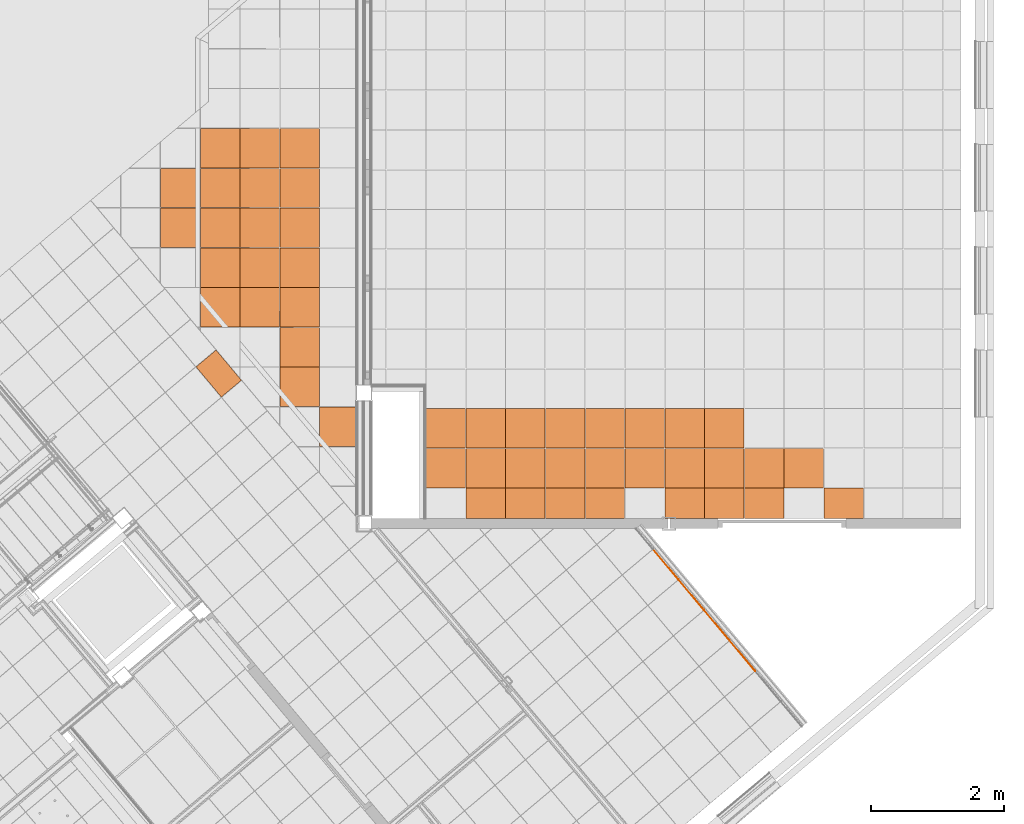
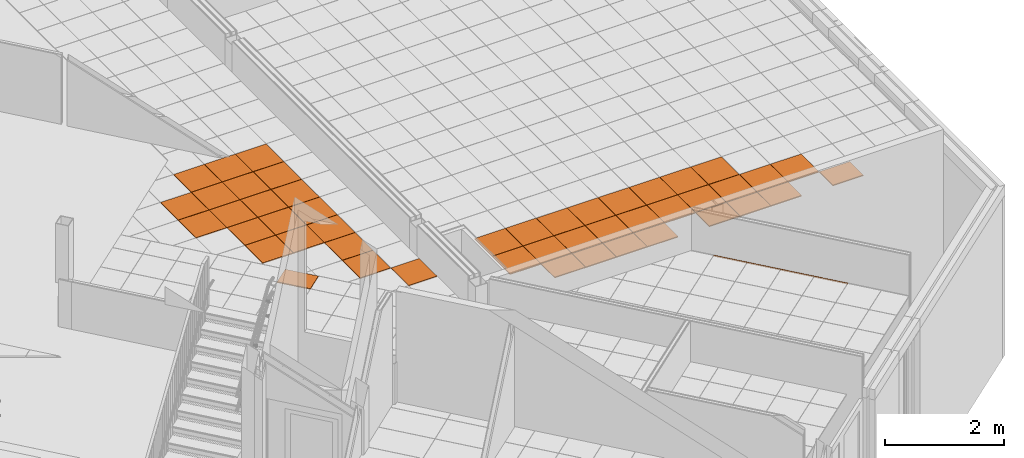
# One storey, part 215 of 338: 51 proxies, 4 elements without a shape of their own.
"""IFC2X3 building model written with IfcOpenShell, lengths in millimetres."""

import ifcopenshell
import ifcopenshell.guid

model = None  # the IFC model being written
_history = None  # IfcOwnerHistory: only IFC2X3 demands one
_inside = {}  # id of a spatial element -> (the spatial element, [elements in it])
_under = {}  # id of a project, library or spatial element -> (it, [spatial elements below it])
_declared = {}  # id of a project -> (the project, [libraries it declares])
_typed = {}  # id of a type object -> (the type object, [elements of that type])
_made_of = {}  # id of a material, layer set ... -> (it, [elements and type objects made of it])


def new_model(schema):
    """Start an empty IFC model of exactly this schema.

    Asked for "IFC4X3", IfcOpenShell would pick the latest addendum, in which some entities
    have other attributes; the version numbers below select the first issue.
    IFC2X3 requires an IfcOwnerHistory on every rooted entity: one is made here for all.
    """
    global model, _history
    if schema == "IFC4X3":
        model = ifcopenshell.file(schema_version=(4, 3, 0, 0))
    else:
        model = ifcopenshell.file(schema=schema)
    _inside.clear()
    _under.clear()
    _declared.clear()
    _typed.clear()
    _made_of.clear()
    _history = None
    if model.schema == "IFC2X3":
        org = make("IfcOrganization", Name="unknown")
        user = make(
            "IfcPersonAndOrganization",
            ThePerson=make("IfcPerson", FamilyName="unknown"),
            TheOrganization=org,
        )
        app = make(
            "IfcApplication",
            ApplicationDeveloper=org,
            Version="unknown",
            ApplicationFullName="unknown",
            ApplicationIdentifier="unknown",
        )
        _history = make(
            "IfcOwnerHistory",
            OwningUser=user,
            OwningApplication=app,
            ChangeAction="ADDED",
            CreationDate=0,
        )
    return model


def make(cls, **values):
    """One entity of the class cls with the attributes given. An attribute that is None is left unset."""
    return model.create_entity(
        cls, **{name: value for name, value in values.items() if value is not None}
    )


def entity(cls, *values):
    """Any entity or typed value of the class cls, its attributes in the order of the schema. None: left unset."""
    e = model.create_entity(cls)
    for i, value in enumerate(values):
        if value is not None:
            e[i] = value
    return e


def rooted(cls, **values):
    """An entity with a GlobalId (a new one), such as an element, a storey or a relation."""
    return make(cls, GlobalId=ifcopenshell.guid.new(), OwnerHistory=_history, **values)


def si_unit(unit_type, name, prefix=None):
    """IfcSIUnit, for example si_unit("LENGTHUNIT", "METRE", prefix="MILLI")."""
    return make("IfcSIUnit", UnitType=unit_type, Prefix=prefix, Name=name)


def converted_unit(unit_type, name, factor, base, dimensions=None, offset=None):
    """IfcConversionBasedUnit, such as the inch: factor (a typed value) times the base unit."""
    return make(
        "IfcConversionBasedUnit"
        if offset is None
        else "IfcConversionBasedUnitWithOffset",
        ConversionOffset=offset,
        Dimensions=None
        if dimensions is None
        else entity("IfcDimensionalExponents", *dimensions),
        UnitType=unit_type,
        Name=name,
        ConversionFactor=make(
            "IfcMeasureWithUnit", ValueComponent=factor, UnitComponent=base
        ),
    )


def derived_unit(unit_type, elements):
    """IfcDerivedUnit: a product of units, each with its exponent."""
    return make(
        "IfcDerivedUnit",
        Elements=[
            make("IfcDerivedUnitElement", Unit=unit, Exponent=power)
            for unit, power in elements
        ],
        UnitType=unit_type,
    )


def money_unit(currency):
    """IfcMonetaryUnit."""
    return make("IfcMonetaryUnit", Currency=currency)


def assignment(units):
    """IfcUnitAssignment: the units of a project."""
    return None if units is None else make("IfcUnitAssignment", Units=units)


def point(xyz):
    """IfcCartesianPoint."""
    return None if xyz is None else make("IfcCartesianPoint", Coordinates=xyz)


def direction(xyz):
    """IfcDirection."""
    return None if xyz is None else make("IfcDirection", DirectionRatios=xyz)


def frame(location, z_axis=None, x_axis=None):
    """IfcAxis2Placement3D, a coordinate frame: its origin and axes. An axis left out is left unset."""
    return make(
        "IfcAxis2Placement3D",
        Location=point(location),
        Axis=direction(z_axis),
        RefDirection=direction(x_axis),
    )


def origin_with_axes():
    """The frame at (0, 0, 0) with the z axis (0, 0, 1) and the x axis (1, 0, 0) written out."""
    return frame((0.0, 0.0, 0.0), z_axis=(0.0, 0.0, 1.0), x_axis=(1.0, 0.0, 0.0))


def place(relative_to, where):
    """IfcLocalPlacement: puts the frame where relative to a parent placement (None: the world)."""
    return make(
        "IfcLocalPlacement", PlacementRelTo=relative_to, RelativePlacement=where
    )


def context(
    kind, dimensions, precision=None, world=None, true_north=None, identifier=None
):
    """IfcGeometricRepresentationContext, for example the 3D "Model" context."""
    return make(
        "IfcGeometricRepresentationContext",
        ContextIdentifier=identifier,
        ContextType=kind,
        CoordinateSpaceDimension=dimensions,
        Precision=precision,
        WorldCoordinateSystem=world,
        TrueNorth=true_north,
    )


def subcontext(parent, identifier, kind, view, scale=None):
    """IfcGeometricRepresentationSubContext, for example "Body" below "Model"."""
    return make(
        "IfcGeometricRepresentationSubContext",
        ContextIdentifier=identifier,
        ContextType=kind,
        ParentContext=parent,
        TargetScale=scale,
        TargetView=view,
    )


def project(units=None, contexts=None):
    """IfcProject with its units and contexts."""
    return rooted(
        "IfcProject",
        Name="project",
        RepresentationContexts=contexts,
        UnitsInContext=assignment(units),
    )


def spatial(cls, under=None, at=None, **own):
    """A site, building, storey or space (cls), placed at a placement, below another one or the project."""
    s = rooted(cls, ObjectPlacement=at, **own)
    if under is not None:
        _under.setdefault(under.id(), (under, []))[1].append(s)
    return s


def faces_of(points, faces, orient=None, outer=None):
    """IfcFace entities. A face is a list of loops; a loop is a list of indices into points, from 0.

    orient and outer hold one flag for each loop. By default every Orientation is true, the
    first loop of a face is its IfcFaceOuterBound and the others are IfcFaceBound.
    """
    made = []
    for i, loops in enumerate(faces):
        bounds = []
        for j, loop in enumerate(loops):
            is_outer = j == 0 if outer is None else outer[i][j]
            bounds.append(
                make(
                    "IfcFaceOuterBound" if is_outer else "IfcFaceBound",
                    Bound=make("IfcPolyLoop", Polygon=[points[k] for k in loop]),
                    Orientation=True if orient is None else orient[i][j],
                )
            )
        made.append(make("IfcFace", Bounds=bounds))
    return made


def faceted_brep(points, faces, orient=None, outer=None, voids=None):
    """IfcFacetedBrep: a solid bounded by flat faces; with voids (closed shells), ...WithVoids."""
    shared = [point(p) for p in points]
    hull = make("IfcClosedShell", CfsFaces=faces_of(shared, faces, orient, outer))
    if voids is None:
        return make("IfcFacetedBrep", Outer=hull)
    return make(
        "IfcFacetedBrepWithVoids",
        Outer=hull,
        Voids=[
            make(cls, CfsFaces=faces_of(shared, fs, o, b)) for cls, fs, o, b in voids
        ],
    )


def shape(context_of_items, identifier, shape_type, items):
    """IfcShapeRepresentation: the items that make up one representation, for example the "Body"."""
    return make(
        "IfcShapeRepresentation",
        ContextOfItems=context_of_items,
        RepresentationIdentifier=identifier,
        RepresentationType=shape_type,
        Items=items,
    )


def source(mapping_origin, context_of_items, identifier, shape_type, items):
    """IfcRepresentationMap: a shape defined once, which mapped items show again and again."""
    return make(
        "IfcRepresentationMap",
        MappingOrigin=mapping_origin,
        MappedRepresentation=shape(context_of_items, identifier, shape_type, items),
    )


def transform(
    local_origin,
    x_axis=None,
    y_axis=None,
    z_axis=None,
    scale=None,
    scale2=None,
    scale3=None,
    uniform=True,
):
    """IfcCartesianTransformationOperator3D, or its non-uniform kind. x_axis, y_axis, z_axis: its Axis1, 2, 3."""
    if uniform:
        return make(
            "IfcCartesianTransformationOperator3D",
            Axis1=direction(x_axis),
            Axis2=direction(y_axis),
            LocalOrigin=point(local_origin),
            Scale=scale,
            Axis3=direction(z_axis),
        )
    return make(
        "IfcCartesianTransformationOperator3DnonUniform",
        Axis1=direction(x_axis),
        Axis2=direction(y_axis),
        LocalOrigin=point(local_origin),
        Scale=scale,
        Axis3=direction(z_axis),
        Scale2=scale2,
        Scale3=scale3,
    )


def mapped(mapping_source, mapping_target):
    """IfcMappedItem: shows the shape of a source again, moved by a transform."""
    return make(
        "IfcMappedItem", MappingSource=mapping_source, MappingTarget=mapping_target
    )


def material(Name=None, Category=None):
    """IfcMaterial."""
    return make("IfcMaterial", Name=Name, Category=Category)


def made_of(thing, what):
    """Note that an element or type object is made of a material, layer set ...; save() writes the relation."""
    if what is not None:
        _made_of.setdefault(what.id(), (what, []))[1].append(thing)
    return thing


def type_object(cls, material=None, **own):
    """A type object (cls), such as IfcWallType, which elements share."""
    return made_of(rooted(cls, **own), material)


def type_shapes(of_type, sources):
    """Give a type object the sources (RepresentationMaps) that its elements show as mapped items."""
    of_type.RepresentationMaps = sources


def element(
    cls,
    number,
    at=None,
    inside=None,
    cuts=None,
    type_object=None,
    material=None,
    context=None,
    identifier="Body",
    shape_type=None,
    held_by="IfcProductDefinitionShape",
    body=None,
    shapes=None,
    **own,
):
    """One element of the class cls, such as IfcWall. Its Tag is "e" and its number.

    at: its placement. inside: the storey or other place that contains it. cuts: it is an
    opening in that element (IfcRelVoidsElement). A single representation is given by context,
    identifier, shape_type and body (its items); several are given by shapes. held_by: the class
    of the entity that holds the representations. save() writes the other relations.
    """
    e = rooted(cls, Tag="e%d" % number, ObjectPlacement=at, **own)
    if body is not None:
        shapes = [shape(context, identifier, shape_type, body)]
    if shapes is not None:
        e.Representation = make(held_by, Representations=shapes)
    if inside is not None:
        _inside.setdefault(inside.id(), (inside, []))[1].append(e)
    if cuts is not None:
        rooted(
            "IfcRelVoidsElement", RelatingBuildingElement=cuts, RelatedOpeningElement=e
        )
    if type_object is not None:
        _typed.setdefault(type_object.id(), (type_object, []))[1].append(e)
    return made_of(e, material)


def aggregate(whole, parts):
    """IfcRelAggregates: a whole, such as a stair, and the parts it consists of."""
    return rooted("IfcRelAggregates", RelatingObject=whole, RelatedObjects=parts)


def save(model, path):
    """Write the relations noted so far, then the file.

    IfcRelAggregates (storeys below a building ...), IfcRelContainedInSpatialStructure (elements
    in a storey), IfcRelDefinesByType, IfcRelAssociatesMaterial and IfcRelDeclares: one each for
    every whole, place, type object, material and project.
    """
    for whole, parts in _under.values():
        aggregate(whole, parts)
    for where, things in _inside.values():
        rooted(
            "IfcRelContainedInSpatialStructure",
            RelatedElements=things,
            RelatingStructure=where,
        )
    for kind, things in _typed.values():
        rooted("IfcRelDefinesByType", RelatedObjects=things, RelatingType=kind)
    for what, things in _made_of.values():
        rooted("IfcRelAssociatesMaterial", RelatedObjects=things, RelatingMaterial=what)
    for by, libraries in _declared.values():
        rooted("IfcRelDeclares", RelatingContext=by, RelatedDefinitions=libraries)
    model.write(path)


model = new_model("IFC2X3")

# Units and contexts
model_context = context("Model", 3, precision=0.01, world=origin_with_axes(), true_north=direction((0.0, 1.0)))
plan_context = context("Plan", 3, precision=0.01, world=origin_with_axes(), true_north=direction((0.0, 1.0)))
body_context = subcontext(model_context, "Body", "Model", "MODEL_VIEW")
ifc_project = project(units=[si_unit("LENGTHUNIT", "METRE", prefix="MILLI"), si_unit("AREAUNIT", "SQUARE_METRE"), si_unit("VOLUMEUNIT", "CUBIC_METRE"), converted_unit("PLANEANGLEUNIT", "DEGREE", entity("IfcPlaneAngleMeasure", 0.0174532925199), si_unit("PLANEANGLEUNIT", "RADIAN"), dimensions=[0, 0, 0, 0, 0, 0, 0]), money_unit("EUR"), converted_unit("TIMEUNIT", "Year", entity("IfcTimeMeasure", 31556926.0), si_unit("TIMEUNIT", "SECOND"), dimensions=[0, 0, 1, 0, 0, 0, 0]), si_unit("MASSUNIT", "GRAM", prefix="KILO"), si_unit("THERMODYNAMICTEMPERATUREUNIT", "DEGREE_CELSIUS"), si_unit("LUMINOUSINTENSITYUNIT", "LUMEN"), si_unit("ENERGYUNIT", "JOULE", prefix="MEGA"), derived_unit("THERMALCONDUCTANCEUNIT", [(si_unit("POWERUNIT", "WATT"), 1), (si_unit("LENGTHUNIT", "METRE"), -1), (si_unit("THERMODYNAMICTEMPERATUREUNIT", "KELVIN"), -1)]), derived_unit("SPECIFICHEATCAPACITYUNIT", [(si_unit("ENERGYUNIT", "JOULE"), 1), (si_unit("MASSUNIT", "GRAM", prefix="KILO"), -1), (si_unit("THERMODYNAMICTEMPERATUREUNIT", "KELVIN"), -1)]), derived_unit("MASSDENSITYUNIT", [(si_unit("MASSUNIT", "GRAM", prefix="KILO"), 1), (si_unit("VOLUMEUNIT", "CUBIC_METRE"), -1)])], contexts=[model_context, plan_context])

# Site, building, storey
site_placement = place(None, origin_with_axes())
site = spatial("IfcSite", under=ifc_project, at=site_placement, Name="Fortuinstraat Woensdrecht", CompositionType="ELEMENT")
building_placement = place(site_placement, origin_with_axes())
building = spatial("IfcBuilding", under=site, at=building_placement, Name="IKC Fortuna", CompositionType="ELEMENT")
storey_placement = place(building_placement, origin_with_axes())
storey = spatial("IfcBuildingStorey", under=building, at=storey_placement, Name="00 begane grond", CompositionType="ELEMENT", Elevation=0.0)

# Covering, proxies
covering_type = type_object("IfcCoveringType", Name="Curtain Wall Type", PredefinedType="CEILING")
covering_1_placement = place(storey_placement, frame((34484.9342671, 3789.29664615, 3065.0), z_axis=(0.0, 0.0, 1.0), x_axis=(1.0, 0.0, 0.0)))
covering_1 = element("IfcCovering", 1, at=covering_1_placement, inside=storey, type_object=covering_type, Name="45_Plafondafwerking_P02 gec", PredefinedType="CEILING")
ifc_material = material(Name="Gipsplaat")
building_element_proxy_type_1 = type_object("IfcBuildingElementProxyType", Name="Distinct Panel 600 x 600 x 20", PredefinedType="NOTDEFINED")
shared_shape_1 = source(origin_with_axes(), body_context, "Body", "Brep", [
    faceted_brep([(-2.49999999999, 2.5, -10.0), (-2.49999999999, 2.5, 10.0), (-597.5, 2.49999999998, 10.0), (-597.5, 2.49999999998, -10.0), (-2.50000000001, 597.5, -10.0), (-2.50000000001, 597.5, 10.0), (-597.5, 597.5, 10.0), (-597.5, 597.5, -10.0)], [[[0, 1, 2, 3]], [[4, 5, 1, 0]], [[1, 5, 6, 2]], [[3, 2, 6, 7]], [[0, 3, 7, 4]], [[7, 6, 5, 4]]]),
])
proxy_1_placement = place(covering_1_placement, frame((-5834.49272604, -1200.0, 0.0), z_axis=(0.0, 0.0, 1.0), x_axis=(1.0, 0.0, 0.0)))
proxy_1 = element("IfcBuildingElementProxy", 2, at=proxy_1_placement, type_object=building_element_proxy_type_1, material=ifc_material, Name="__Panel-D", context=body_context, shape_type="MappedRepresentation", body=[
    mapped(shared_shape_1, transform((-300.0, 300.0, 0.0), x_axis=(-1.0, 0.0, 0.0), y_axis=(0.0, -1.0, 0.0), z_axis=(0.0, 0.0, 1.0))),
])
proxy_2_placement = place(covering_1_placement, frame((-2834.49272604, -1200.0, 1.95399252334e-10), z_axis=(0.0, 0.0, 1.0), x_axis=(1.0, 0.0, 0.0)))
proxy_2 = element("IfcBuildingElementProxy", 3, at=proxy_2_placement, type_object=building_element_proxy_type_1, material=ifc_material, Name="__Panel-D", context=body_context, shape_type="MappedRepresentation", body=[
    mapped(shared_shape_1, transform((-300.0, 300.0, 0.0), x_axis=(-1.0, 0.0, 0.0), y_axis=(0.0, -1.0, 0.0), z_axis=(0.0, 0.0, 1.0))),
])
proxy_3_placement = place(covering_1_placement, frame((-2234.49272604, -1200.0, 2.14939177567e-10), z_axis=(0.0, 0.0, 1.0), x_axis=(1.0, 0.0, 0.0)))
proxy_3 = element("IfcBuildingElementProxy", 4, at=proxy_3_placement, type_object=building_element_proxy_type_1, material=ifc_material, Name="__Panel-D", context=body_context, shape_type="MappedRepresentation", body=[
    mapped(shared_shape_1, transform((-300.0, 300.0, 0.0), x_axis=(-1.0, 0.0, 0.0), y_axis=(0.0, -1.0, 0.0), z_axis=(0.0, 0.0, 1.0))),
])
proxy_4_placement = place(covering_1_placement, frame((-5834.49272604, -600.0, 0.0), z_axis=(0.0, 0.0, 1.0), x_axis=(1.0, 0.0, 0.0)))
proxy_4 = element("IfcBuildingElementProxy", 5, at=proxy_4_placement, type_object=building_element_proxy_type_1, material=ifc_material, Name="__Panel-D", context=body_context, shape_type="MappedRepresentation", body=[
    mapped(shared_shape_1, transform((-300.0, 300.0, 0.0), x_axis=(-1.0, 0.0, 0.0), y_axis=(0.0, -1.0, 0.0), z_axis=(0.0, 0.0, 1.0))),
])
proxy_5_placement = place(covering_1_placement, frame((-7034.49272604, -600.0, 0.0), z_axis=(0.0, 0.0, 1.0), x_axis=(1.0, 0.0, 0.0)))
proxy_5 = element("IfcBuildingElementProxy", 6, at=proxy_5_placement, type_object=building_element_proxy_type_1, material=ifc_material, Name="__Panel-D", context=body_context, shape_type="MappedRepresentation", body=[
    mapped(shared_shape_1, transform((-300.0, 300.0, 0.0), x_axis=(-1.0, 0.0, 0.0), y_axis=(0.0, -1.0, 0.0), z_axis=(0.0, 0.0, 1.0))),
])
proxy_6_placement = place(covering_1_placement, frame((-4634.49272604, -1200.0, 1.37223565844e-10), z_axis=(0.0, 0.0, 1.0), x_axis=(1.0, 0.0, 0.0)))
proxy_6 = element("IfcBuildingElementProxy", 7, at=proxy_6_placement, type_object=building_element_proxy_type_1, material=ifc_material, Name="__Panel-D", context=body_context, shape_type="MappedRepresentation", body=[
    mapped(shared_shape_1, transform((-300.0, 300.0, 0.0), x_axis=(-1.0, 0.0, 0.0), y_axis=(0.0, -1.0, 0.0), z_axis=(0.0, 0.0, 1.0))),
])
proxy_7_placement = place(covering_1_placement, frame((-5234.49272604, -1200.0, 1.1768364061e-10), z_axis=(0.0, 0.0, 1.0), x_axis=(1.0, 0.0, 0.0)))
proxy_7 = element("IfcBuildingElementProxy", 8, at=proxy_7_placement, type_object=building_element_proxy_type_1, material=ifc_material, Name="__Panel-D", context=body_context, shape_type="MappedRepresentation", body=[
    mapped(shared_shape_1, transform((-300.0, 300.0, 0.0), x_axis=(-1.0, 0.0, 0.0), y_axis=(0.0, -1.0, 0.0), z_axis=(0.0, 0.0, 1.0))),
])
proxy_8_placement = place(covering_1_placement, frame((-5234.49272604, -600.0, 1.1768364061e-10), z_axis=(0.0, 0.0, 1.0), x_axis=(1.0, 0.0, 0.0)))
proxy_8 = element("IfcBuildingElementProxy", 9, at=proxy_8_placement, type_object=building_element_proxy_type_1, material=ifc_material, Name="__Panel-D", context=body_context, shape_type="MappedRepresentation", body=[
    mapped(shared_shape_1, transform((-300.0, 300.0, 0.0), x_axis=(-1.0, 0.0, 0.0), y_axis=(0.0, -1.0, 0.0), z_axis=(0.0, 0.0, 1.0))),
])
proxy_9_placement = place(covering_1_placement, frame((-4034.49272604, -600.0, 1.56319401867e-10), z_axis=(0.0, 0.0, 1.0), x_axis=(1.0, 0.0, 0.0)))
proxy_9 = element("IfcBuildingElementProxy", 10, at=proxy_9_placement, type_object=building_element_proxy_type_1, material=ifc_material, Name="__Panel-D", context=body_context, shape_type="MappedRepresentation", body=[
    mapped(shared_shape_1, transform((-300.0, 300.0, 0.0), x_axis=(-1.0, 0.0, 0.0), y_axis=(0.0, -1.0, 0.0), z_axis=(0.0, 0.0, 1.0))),
])
proxy_10_placement = place(covering_1_placement, frame((-3434.49272604, -600.0, 1.75859327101e-10), z_axis=(0.0, 0.0, 1.0), x_axis=(1.0, 0.0, 0.0)))
proxy_10 = element("IfcBuildingElementProxy", 11, at=proxy_10_placement, type_object=building_element_proxy_type_1, material=ifc_material, Name="__Panel-D", context=body_context, shape_type="MappedRepresentation", body=[
    mapped(shared_shape_1, transform((-300.0, 300.0, 0.0), x_axis=(-1.0, 0.0, 0.0), y_axis=(0.0, -1.0, 0.0), z_axis=(0.0, 0.0, 1.0))),
])
proxy_11_placement = place(covering_1_placement, frame((-4634.49272604, -600.0, 1.37223565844e-10), z_axis=(0.0, 0.0, 1.0), x_axis=(1.0, 0.0, 0.0)))
proxy_11 = element("IfcBuildingElementProxy", 12, at=proxy_11_placement, type_object=building_element_proxy_type_1, material=ifc_material, Name="__Panel-D", context=body_context, shape_type="MappedRepresentation", body=[
    mapped(shared_shape_1, transform((-300.0, 300.0, 0.0), x_axis=(-1.0, 0.0, 0.0), y_axis=(0.0, -1.0, 0.0), z_axis=(0.0, 0.0, 1.0))),
])
proxy_12_placement = place(covering_1_placement, frame((-3434.49272604, -1200.0, 1.75859327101e-10), z_axis=(0.0, 0.0, 1.0), x_axis=(1.0, 0.0, 0.0)))
proxy_12 = element("IfcBuildingElementProxy", 13, at=proxy_12_placement, type_object=building_element_proxy_type_1, material=ifc_material, Name="__Panel-D", context=body_context, shape_type="MappedRepresentation", body=[
    mapped(shared_shape_1, transform((-300.0, 300.0, 0.0), x_axis=(-1.0, 0.0, 0.0), y_axis=(0.0, -1.0, 0.0), z_axis=(0.0, 0.0, 1.0))),
])
proxy_13_placement = place(covering_1_placement, frame((-4034.49272604, -1200.0, 1.56319401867e-10), z_axis=(0.0, 0.0, 1.0), x_axis=(1.0, 0.0, 0.0)))
proxy_13 = element("IfcBuildingElementProxy", 14, at=proxy_13_placement, type_object=building_element_proxy_type_1, material=ifc_material, Name="__Panel-D", context=body_context, shape_type="MappedRepresentation", body=[
    mapped(shared_shape_1, transform((-300.0, 300.0, 0.0), x_axis=(-1.0, 0.0, 0.0), y_axis=(0.0, -1.0, 0.0), z_axis=(0.0, 0.0, 1.0))),
])
proxy_14_placement = place(covering_1_placement, frame((-6434.49272604, -1200.0, 0.0), z_axis=(0.0, 0.0, 1.0), x_axis=(1.0, 0.0, 0.0)))
proxy_14 = element("IfcBuildingElementProxy", 15, at=proxy_14_placement, type_object=building_element_proxy_type_1, material=ifc_material, Name="__Panel-D", context=body_context, shape_type="MappedRepresentation", body=[
    mapped(shared_shape_1, transform((-300.0, 300.0, 0.0), x_axis=(-1.0, 0.0, 0.0), y_axis=(0.0, -1.0, 0.0), z_axis=(0.0, 0.0, 1.0))),
])
proxy_15_placement = place(covering_1_placement, frame((-7634.49272604, -1200.0, 0.0), z_axis=(0.0, 0.0, 1.0), x_axis=(1.0, 0.0, 0.0)))
proxy_15 = element("IfcBuildingElementProxy", 16, at=proxy_15_placement, type_object=building_element_proxy_type_1, material=ifc_material, Name="__Panel-D", context=body_context, shape_type="MappedRepresentation", body=[
    mapped(shared_shape_1, transform((-300.0, 300.0, 0.0), x_axis=(-1.0, 0.0, 0.0), y_axis=(0.0, -1.0, 0.0), z_axis=(0.0, 0.0, 1.0))),
])
proxy_16_placement = place(covering_1_placement, frame((-7634.49272604, -600.0, 0.0), z_axis=(0.0, 0.0, 1.0), x_axis=(1.0, 0.0, 0.0)))
proxy_16 = element("IfcBuildingElementProxy", 17, at=proxy_16_placement, type_object=building_element_proxy_type_1, material=ifc_material, Name="__Panel-D", context=body_context, shape_type="MappedRepresentation", body=[
    mapped(shared_shape_1, transform((-300.0, 300.0, 0.0), x_axis=(-1.0, 0.0, 0.0), y_axis=(0.0, -1.0, 0.0), z_axis=(0.0, 0.0, 1.0))),
])
proxy_17_placement = place(covering_1_placement, frame((-7034.49272604, -1200.0, 0.0), z_axis=(0.0, 0.0, 1.0), x_axis=(1.0, 0.0, 0.0)))
proxy_17 = element("IfcBuildingElementProxy", 18, at=proxy_17_placement, type_object=building_element_proxy_type_1, material=ifc_material, Name="__Panel-D", context=body_context, shape_type="MappedRepresentation", body=[
    mapped(shared_shape_1, transform((-300.0, 300.0, 0.0), x_axis=(-1.0, 0.0, 0.0), y_axis=(0.0, -1.0, 0.0), z_axis=(0.0, 0.0, 1.0))),
])
proxy_18_placement = place(covering_1_placement, frame((-6434.49272604, -600.0, 0.0), z_axis=(0.0, 0.0, 1.0), x_axis=(1.0, 0.0, 0.0)))
proxy_18 = element("IfcBuildingElementProxy", 19, at=proxy_18_placement, type_object=building_element_proxy_type_1, material=ifc_material, Name="__Panel-D", context=body_context, shape_type="MappedRepresentation", body=[
    mapped(shared_shape_1, transform((-300.0, 300.0, 0.0), x_axis=(-1.0, 0.0, 0.0), y_axis=(0.0, -1.0, 0.0), z_axis=(0.0, 0.0, 1.0))),
])

covering_2_placement = place(storey_placement, frame((23508.1808374, 14013.4616156, 3010.0), z_axis=(0.0, 0.0, 1.0), x_axis=(1.0, 0.0, 0.0)))
covering_2 = element("IfcCovering", 20, at=covering_2_placement, inside=storey, type_object=covering_type, Name="45_Plafondafwerking_P04", PredefinedType="CEILING")
proxy_19_placement = place(covering_2_placement, frame((-63.2542355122, -7800.0, 0.0), z_axis=(0.0, 0.0, 1.0), x_axis=(1.0, 0.0, 0.0)))
proxy_19 = element("IfcBuildingElementProxy", 21, at=proxy_19_placement, type_object=building_element_proxy_type_1, material=ifc_material, Name="__Panel-D", context=body_context, shape_type="MappedRepresentation", body=[
    mapped(shared_shape_1, transform((-300.0, 300.0, 0.0), x_axis=(-1.0, 0.0, 0.0), y_axis=(0.0, -1.0, 0.0), z_axis=(0.0, 0.0, 1.0))),
])
proxy_20_placement = place(covering_2_placement, frame((-63.2542355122, -8400.0, 0.0), z_axis=(0.0, 0.0, 1.0), x_axis=(1.0, 0.0, 0.0)))
proxy_20 = element("IfcBuildingElementProxy", 22, at=proxy_20_placement, type_object=building_element_proxy_type_1, material=ifc_material, Name="__Panel-D", context=body_context, shape_type="MappedRepresentation", body=[
    mapped(shared_shape_1, transform((-300.0, 300.0, 0.0), x_axis=(-1.0, 0.0, 0.0), y_axis=(0.0, -1.0, 0.0), z_axis=(0.0, 0.0, 1.0))),
])
proxy_21_placement = place(covering_2_placement, frame((1136.74576449, -10200.0, 1.03916875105e-10), z_axis=(0.0, 0.0, 1.0), x_axis=(1.0, 0.0, 0.0)))
proxy_21 = element("IfcBuildingElementProxy", 23, at=proxy_21_placement, type_object=building_element_proxy_type_1, material=ifc_material, Name="__Panel-D", context=body_context, shape_type="MappedRepresentation", body=[
    mapped(shared_shape_1, transform((-300.0, 300.0, 0.0), x_axis=(-1.0, 0.0, 0.0), y_axis=(0.0, -1.0, 0.0), z_axis=(0.0, 0.0, 1.0))),
])
proxy_22_placement = place(covering_2_placement, frame((536.745764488, -6600.0, 0.0), z_axis=(0.0, 0.0, 1.0), x_axis=(1.0, 0.0, 0.0)))
proxy_22 = element("IfcBuildingElementProxy", 24, at=proxy_22_placement, type_object=building_element_proxy_type_1, material=ifc_material, Name="__Panel-D", context=body_context, shape_type="MappedRepresentation", body=[
    mapped(shared_shape_1, transform((-300.0, 300.0, 0.0), x_axis=(-1.0, 0.0, 0.0), y_axis=(0.0, -1.0, 0.0), z_axis=(0.0, 0.0, 1.0))),
])
proxy_23_placement = place(covering_2_placement, frame((536.745764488, -7200.0, 0.0), z_axis=(0.0, 0.0, 1.0), x_axis=(1.0, 0.0, 0.0)))
proxy_23 = element("IfcBuildingElementProxy", 25, at=proxy_23_placement, type_object=building_element_proxy_type_1, material=ifc_material, Name="__Panel-D", context=body_context, shape_type="MappedRepresentation", body=[
    mapped(shared_shape_1, transform((-300.0, 300.0, 0.0), x_axis=(-1.0, 0.0, 0.0), y_axis=(0.0, -1.0, 0.0), z_axis=(0.0, 0.0, 1.0))),
])
proxy_24_placement = place(covering_2_placement, frame((536.745764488, -7800.0, 0.0), z_axis=(0.0, 0.0, 1.0), x_axis=(1.0, 0.0, 0.0)))
proxy_24 = element("IfcBuildingElementProxy", 26, at=proxy_24_placement, type_object=building_element_proxy_type_1, material=ifc_material, Name="__Panel-D", context=body_context, shape_type="MappedRepresentation", body=[
    mapped(shared_shape_1, transform((-300.0, 300.0, 0.0), x_axis=(-1.0, 0.0, 0.0), y_axis=(0.0, -1.0, 0.0), z_axis=(0.0, 0.0, 1.0))),
])
proxy_25_placement = place(covering_2_placement, frame((536.745764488, -8400.0, 0.0), z_axis=(0.0, 0.0, 1.0), x_axis=(1.0, 0.0, 0.0)))
proxy_25 = element("IfcBuildingElementProxy", 27, at=proxy_25_placement, type_object=building_element_proxy_type_1, material=ifc_material, Name="__Panel-D", context=body_context, shape_type="MappedRepresentation", body=[
    mapped(shared_shape_1, transform((-300.0, 300.0, 0.0), x_axis=(-1.0, 0.0, 0.0), y_axis=(0.0, -1.0, 0.0), z_axis=(0.0, 0.0, 1.0))),
])
proxy_26_placement = place(covering_2_placement, frame((536.745764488, -9000.0, 0.0), z_axis=(0.0, 0.0, 1.0), x_axis=(1.0, 0.0, 0.0)))
proxy_26 = element("IfcBuildingElementProxy", 28, at=proxy_26_placement, type_object=building_element_proxy_type_1, material=ifc_material, Name="__Panel-D", context=body_context, shape_type="MappedRepresentation", body=[
    mapped(shared_shape_1, transform((-300.0, 300.0, 0.0), x_axis=(-1.0, 0.0, 0.0), y_axis=(0.0, -1.0, 0.0), z_axis=(0.0, 0.0, 1.0))),
])
proxy_27_placement = place(covering_2_placement, frame((1136.74576449, -6600.0, 1.03916875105e-10), z_axis=(0.0, 0.0, 1.0), x_axis=(1.0, 0.0, 0.0)))
proxy_27 = element("IfcBuildingElementProxy", 29, at=proxy_27_placement, type_object=building_element_proxy_type_1, material=ifc_material, Name="__Panel-D", context=body_context, shape_type="MappedRepresentation", body=[
    mapped(shared_shape_1, transform((-300.0, 300.0, 0.0), x_axis=(-1.0, 0.0, 0.0), y_axis=(0.0, -1.0, 0.0), z_axis=(0.0, 0.0, 1.0))),
])
proxy_28_placement = place(covering_2_placement, frame((1136.74576449, -7200.0, 1.03916875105e-10), z_axis=(0.0, 0.0, 1.0), x_axis=(1.0, 0.0, 0.0)))
proxy_28 = element("IfcBuildingElementProxy", 30, at=proxy_28_placement, type_object=building_element_proxy_type_1, material=ifc_material, Name="__Panel-D", context=body_context, shape_type="MappedRepresentation", body=[
    mapped(shared_shape_1, transform((-300.0, 300.0, 0.0), x_axis=(-1.0, 0.0, 0.0), y_axis=(0.0, -1.0, 0.0), z_axis=(0.0, 0.0, 1.0))),
])
proxy_29_placement = place(covering_2_placement, frame((1136.74576449, -7800.0, 1.03916875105e-10), z_axis=(0.0, 0.0, 1.0), x_axis=(1.0, 0.0, 0.0)))
proxy_29 = element("IfcBuildingElementProxy", 31, at=proxy_29_placement, type_object=building_element_proxy_type_1, material=ifc_material, Name="__Panel-D", context=body_context, shape_type="MappedRepresentation", body=[
    mapped(shared_shape_1, transform((-300.0, 300.0, 0.0), x_axis=(-1.0, 0.0, 0.0), y_axis=(0.0, -1.0, 0.0), z_axis=(0.0, 0.0, 1.0))),
])
proxy_30_placement = place(covering_2_placement, frame((1136.74576449, -8400.0, 1.03916875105e-10), z_axis=(0.0, 0.0, 1.0), x_axis=(1.0, 0.0, 0.0)))
proxy_30 = element("IfcBuildingElementProxy", 32, at=proxy_30_placement, type_object=building_element_proxy_type_1, material=ifc_material, Name="__Panel-D", context=body_context, shape_type="MappedRepresentation", body=[
    mapped(shared_shape_1, transform((-300.0, 300.0, 0.0), x_axis=(-1.0, 0.0, 0.0), y_axis=(0.0, -1.0, 0.0), z_axis=(0.0, 0.0, 1.0))),
])
proxy_31_placement = place(covering_2_placement, frame((1136.74576449, -9000.0, 1.03916875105e-10), z_axis=(0.0, 0.0, 1.0), x_axis=(1.0, 0.0, 0.0)))
proxy_31 = element("IfcBuildingElementProxy", 33, at=proxy_31_placement, type_object=building_element_proxy_type_1, material=ifc_material, Name="__Panel-D", context=body_context, shape_type="MappedRepresentation", body=[
    mapped(shared_shape_1, transform((-300.0, 300.0, 0.0), x_axis=(-1.0, 0.0, 0.0), y_axis=(0.0, -1.0, 0.0), z_axis=(0.0, 0.0, 1.0))),
])
proxy_32_placement = place(covering_2_placement, frame((1136.74576449, -9600.0, 1.03916875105e-10), z_axis=(0.0, 0.0, 1.0), x_axis=(1.0, 0.0, 0.0)))
proxy_32 = element("IfcBuildingElementProxy", 34, at=proxy_32_placement, type_object=building_element_proxy_type_1, material=ifc_material, Name="__Panel-D", context=body_context, shape_type="MappedRepresentation", body=[
    mapped(shared_shape_1, transform((-300.0, 300.0, 0.0), x_axis=(-1.0, 0.0, 0.0), y_axis=(0.0, -1.0, 0.0), z_axis=(0.0, 0.0, 1.0))),
])
shared_shape_2 = source(origin_with_axes(), body_context, "Body", "Brep", [
    faceted_brep([(-2.5000069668, 2.4999963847, -10.0), (-2.5000069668, 2.4999963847, 10.0), (-597.499995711, 2.50000275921, 10.0), (-597.499995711, 2.50000275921, -10.0), (-2.50000214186, 597.499967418, -10.0), (-2.50000214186, 597.499967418, 10.0), (-597.499990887, 597.499973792, 10.0), (-597.499990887, 597.499973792, -10.0)], [[[0, 1, 2, 3]], [[4, 5, 1, 0]], [[1, 5, 6, 2]], [[3, 2, 6, 7]], [[0, 3, 7, 4]], [[7, 6, 5, 4]]]),
])
proxy_33_placement = place(covering_2_placement, frame((-63.2542355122, -9000.0, 0.0), z_axis=(0.0, 0.0, 1.0), x_axis=(1.0, 0.0, 0.0)))
proxy_33 = element("IfcBuildingElementProxy", 35, at=proxy_33_placement, type_object=building_element_proxy_type_1, material=ifc_material, Name="__Panel-D", context=body_context, shape_type="MappedRepresentation", body=[
    mapped(shared_shape_2, transform((-300.0, 300.0, 0.0), x_axis=(-1.0, 0.0, 0.0), y_axis=(0.0, -1.0, 0.0), z_axis=(0.0, 0.0, 1.0))),
])

# Proxy
building_element_proxy_type_2 = type_object("IfcBuildingElementProxyType", Name="Distinct Panel 600 x 462 x 20", PredefinedType="NOTDEFINED")
shared_shape_3 = source(origin_with_axes(), body_context, "Body", "Brep", [
    faceted_brep([(-2.49999999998, 2.49999724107, -10.0), (-2.49999999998, 2.49999724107, 10.0), (-597.5, 2.49999724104, 10.0), (-597.5, 2.49999724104, -10.0), (-2.5, 459.49870978, -10.0), (-2.5, 459.49870978, 10.0), (-597.5, 459.499416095, 10.0), (-597.5, 459.499416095, -10.0)], [[[0, 1, 2, 3]], [[4, 5, 1, 0]], [[1, 5, 6, 2]], [[3, 2, 6, 7]], [[0, 3, 7, 4]], [[7, 6, 5, 4]]]),
])
proxy_34_placement = place(covering_1_placement, frame((-4034.49272604, -1730.99793797, 1.56319401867e-10), z_axis=(0.0, 0.0, 1.0), x_axis=(1.0, 0.0, 0.0)))
proxy_34 = element("IfcBuildingElementProxy", 36, at=proxy_34_placement, type_object=building_element_proxy_type_2, material=ifc_material, Name="__Panel-D", context=body_context, shape_type="MappedRepresentation", body=[
    mapped(shared_shape_3, transform((-300.0, 230.997937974, 0.0), x_axis=(-1.0, 0.0, 0.0), y_axis=(0.0, -1.0, 0.0), z_axis=(0.0, 0.0, 1.0))),
])

proxy_35_placement = place(covering_1_placement, frame((-2834.49272604, -1730.9985752, 1.95399252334e-10), z_axis=(0.0, 0.0, 1.0), x_axis=(1.0, 0.0, 0.0)))
proxy_35 = element("IfcBuildingElementProxy", 37, at=proxy_35_placement, type_object=building_element_proxy_type_2, material=ifc_material, Name="__Panel-D", context=body_context, shape_type="MappedRepresentation", body=[
    mapped(shared_shape_3, transform((-300.0, 230.998575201, 0.0), x_axis=(-1.0, 0.0, 0.0), y_axis=(0.0, -1.0, 0.0), z_axis=(0.0, 0.0, 1.0))),
])

proxy_36_placement = place(covering_1_placement, frame((-1634.49272604, -1730.99921243, 2.34479102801e-10), z_axis=(0.0, 0.0, 1.0), x_axis=(1.0, 0.0, 0.0)))
proxy_36 = element("IfcBuildingElementProxy", 38, at=proxy_36_placement, type_object=building_element_proxy_type_2, material=ifc_material, Name="__Panel-D", context=body_context, shape_type="MappedRepresentation", body=[
    mapped(shared_shape_3, transform((-300.0, 230.999212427, 0.0), x_axis=(-1.0, 0.0, 0.0), y_axis=(0.0, -1.0, 0.0), z_axis=(0.0, 0.0, 1.0))),
])

proxy_37_placement = place(covering_1_placement, frame((-3434.49272604, -1730.99825659, 1.75859327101e-10), z_axis=(0.0, 0.0, 1.0), x_axis=(1.0, 0.0, 0.0)))
proxy_37 = element("IfcBuildingElementProxy", 39, at=proxy_37_placement, type_object=building_element_proxy_type_2, material=ifc_material, Name="__Panel-D", context=body_context, shape_type="MappedRepresentation", body=[
    mapped(shared_shape_3, transform((-300.0, 230.998256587, 0.0), x_axis=(-1.0, 0.0, 0.0), y_axis=(0.0, -1.0, 0.0), z_axis=(0.0, 0.0, 1.0))),
])

shared_shape_4 = source(origin_with_axes(), body_context, "Body", "Brep", [
    faceted_brep([(-2.50000185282, 2.50000514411, -10.0), (-2.50000185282, 2.50000514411, 10.0), (-597.499994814, 2.50000188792, 10.0), (-597.499994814, 2.50000188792, -10.0), (-2.50000510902, 597.499998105, -10.0), (-2.50000510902, 597.499998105, 10.0), (-597.49998844, 597.50000293, 10.0), (-597.49998844, 597.50000293, -10.0)], [[[0, 1, 2, 3]], [[4, 5, 1, 0]], [[1, 5, 6, 2]], [[3, 2, 6, 7]], [[0, 3, 7, 4]], [[7, 6, 5, 4]]]),
])
proxy_38_placement = place(covering_2_placement, frame((-63.2542355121, -6600.0, 0.0), z_axis=(0.0, 0.0, 1.0), x_axis=(1.0, 0.0, 0.0)))
proxy_38 = element("IfcBuildingElementProxy", 40, at=proxy_38_placement, type_object=building_element_proxy_type_1, material=ifc_material, Name="__Panel-D", context=body_context, shape_type="MappedRepresentation", body=[
    mapped(shared_shape_4, transform((-300.0, 300.0, 0.0), x_axis=(-1.0, 0.0, 0.0), y_axis=(0.0, -1.0, 0.0), z_axis=(0.0, 0.0, 1.0))),
])

shared_shape_5 = source(origin_with_axes(), body_context, "Body", "Brep", [
    faceted_brep([(-2.49999999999, 2.49999879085, -10.0), (-2.49999999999, 2.49999879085, 10.0), (-597.5, 2.49999879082, 10.0), (-597.5, 2.49999879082, -10.0), (-2.50000000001, 459.494321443, -10.0), (-2.50000000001, 459.494321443, 10.0), (-597.5, 459.494884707, 10.0), (-597.5, 459.494884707, -10.0)], [[[0, 1, 2, 3]], [[4, 5, 1, 0]], [[1, 5, 6, 2]], [[3, 2, 6, 7]], [[0, 3, 7, 4]], [[7, 6, 5, 4]]]),
])
type_shapes(building_element_proxy_type_2, [shared_shape_3, shared_shape_5])
proxy_39_placement = place(covering_1_placement, frame((-5234.49272604, -1730.99730075, 1.1768364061e-10), z_axis=(0.0, 0.0, 1.0), x_axis=(1.0, 0.0, 0.0)))
proxy_39 = element("IfcBuildingElementProxy", 41, at=proxy_39_placement, type_object=building_element_proxy_type_2, material=ifc_material, Name="__Panel-D", context=body_context, shape_type="MappedRepresentation", body=[
    mapped(shared_shape_5, transform((-300.0, 230.997300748, 0.0), x_axis=(-1.0, 0.0, 0.0), y_axis=(0.0, -1.0, 0.0), z_axis=(0.0, 0.0, 1.0))),
])

proxy_40_placement = place(covering_1_placement, frame((-7034.49272604, -1730.99634491, 0.0), z_axis=(0.0, 0.0, 1.0), x_axis=(1.0, 0.0, 0.0)))
proxy_40 = element("IfcBuildingElementProxy", 42, at=proxy_40_placement, type_object=building_element_proxy_type_2, material=ifc_material, Name="__Panel-D", context=body_context, shape_type="MappedRepresentation", body=[
    mapped(shared_shape_5, transform((-300.0, 230.996344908, 0.0), x_axis=(-1.0, 0.0, 0.0), y_axis=(0.0, -1.0, 0.0), z_axis=(0.0, 0.0, 1.0))),
])

proxy_41_placement = place(covering_1_placement, frame((-6434.49272604, -1730.99666352, 0.0), z_axis=(0.0, 0.0, 1.0), x_axis=(1.0, 0.0, 0.0)))
proxy_41 = element("IfcBuildingElementProxy", 43, at=proxy_41_placement, type_object=building_element_proxy_type_2, material=ifc_material, Name="__Panel-D", context=body_context, shape_type="MappedRepresentation", body=[
    mapped(shared_shape_5, transform((-300.0, 230.996663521, 0.0), x_axis=(-1.0, 0.0, 0.0), y_axis=(0.0, -1.0, 0.0), z_axis=(0.0, 0.0, 1.0))),
])

proxy_42_placement = place(covering_1_placement, frame((-5834.49272604, -1730.99698213, 0.0), z_axis=(0.0, 0.0, 1.0), x_axis=(1.0, 0.0, 0.0)))
proxy_42 = element("IfcBuildingElementProxy", 44, at=proxy_42_placement, type_object=building_element_proxy_type_2, material=ifc_material, Name="__Panel-D", context=body_context, shape_type="MappedRepresentation", body=[
    mapped(shared_shape_5, transform((-300.0, 230.996982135, 0.0), x_axis=(-1.0, 0.0, 0.0), y_axis=(0.0, -1.0, 0.0), z_axis=(0.0, 0.0, 1.0))),
])

aggregate(covering_1, [proxy_1, proxy_2, proxy_3, proxy_34, proxy_4, proxy_5, proxy_6, proxy_7, proxy_8, proxy_9, proxy_10, proxy_11, proxy_35, proxy_12, proxy_13, proxy_14, proxy_36, proxy_37, proxy_15, proxy_16, proxy_39, proxy_17, proxy_18, proxy_40, proxy_41, proxy_42])

shared_shape_6 = source(origin_with_axes(), body_context, "Body", "Brep", [
    faceted_brep([(-2.49999999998, 2.5, -10.0), (-2.49999999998, 2.5, 10.0), (-597.5, 2.49999999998, 10.0), (-597.5, 2.49999999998, -10.0), (-2.50000000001, 597.5, -10.0), (-2.50000000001, 597.5, 10.0), (-597.5, 597.5, 10.0), (-597.5, 597.5, -10.0)], [[[0, 1, 2, 3]], [[4, 5, 1, 0]], [[1, 5, 6, 2]], [[3, 2, 6, 7]], [[0, 3, 7, 4]], [[7, 6, 5, 4]]]),
])
proxy_43_placement = place(covering_2_placement, frame((-663.254235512, -7800.0, 0.0), z_axis=(0.0, 0.0, 1.0), x_axis=(1.0, 0.0, 0.0)))
proxy_43 = element("IfcBuildingElementProxy", 45, at=proxy_43_placement, type_object=building_element_proxy_type_1, material=ifc_material, Name="__Panel-D", context=body_context, shape_type="MappedRepresentation", body=[
    mapped(shared_shape_6, transform((-300.0, 300.0, 0.0), x_axis=(-1.0, 0.0, 0.0), y_axis=(0.0, -1.0, 0.0), z_axis=(0.0, 0.0, 1.0))),
])

proxy_44_placement = place(covering_2_placement, frame((-63.2542355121, -7200.0, 0.0), z_axis=(0.0, 0.0, 1.0), x_axis=(1.0, 0.0, 0.0)))
proxy_44 = element("IfcBuildingElementProxy", 46, at=proxy_44_placement, type_object=building_element_proxy_type_1, material=ifc_material, Name="__Panel-D", context=body_context, shape_type="MappedRepresentation", body=[
    mapped(shared_shape_6, transform((-300.0, 300.0, 0.0), x_axis=(-1.0, 0.0, 0.0), y_axis=(0.0, -1.0, 0.0), z_axis=(0.0, 0.0, 1.0))),
])

shared_shape_7 = source(origin_with_axes(), body_context, "Body", "Brep", [
    faceted_brep([(-2.50000189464, 2.50000510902, -10.0), (-2.50000189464, 2.50000510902, 10.0), (-597.499994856, 2.50000185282, 10.0), (-597.499994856, 2.50000185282, -10.0), (-2.4999970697, 597.49998844, -10.0), (-2.4999970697, 597.49998844, 10.0), (-597.499988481, 597.500002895, 10.0), (-597.499988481, 597.500002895, -10.0)], [[[0, 1, 2, 3]], [[4, 5, 1, 0]], [[1, 5, 6, 2]], [[3, 2, 6, 7]], [[0, 3, 7, 4]], [[7, 6, 5, 4]]]),
])
type_shapes(building_element_proxy_type_1, [shared_shape_1, shared_shape_2, shared_shape_4, shared_shape_6, shared_shape_7])
proxy_45_placement = place(covering_2_placement, frame((-663.254235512, -7200.0, 0.0), z_axis=(0.0, 0.0, 1.0), x_axis=(1.0, 0.0, 0.0)))
proxy_45 = element("IfcBuildingElementProxy", 47, at=proxy_45_placement, type_object=building_element_proxy_type_1, material=ifc_material, Name="__Panel-D", context=body_context, shape_type="MappedRepresentation", body=[
    mapped(shared_shape_7, transform((-300.0, 300.0, 0.0), x_axis=(-1.0, 0.0, 0.0), y_axis=(0.0, -1.0, 0.0), z_axis=(0.0, 0.0, 1.0))),
])

# Covering, proxies
covering_3_placement = place(storey_placement, frame((30245.4600673, -364.084118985, 2810.0), z_axis=(0.0, 0.0, 1.0), x_axis=(1.0, 0.0, 0.0)))
covering_3 = element("IfcCovering", 48, at=covering_3_placement, inside=storey, type_object=covering_type, Name="45_Plafondafwerking_P02", PredefinedType="CEILING")
building_element_proxy_type_3 = type_object("IfcBuildingElementProxyType", Name="Distinct Panel 10 x 600 x 20", PredefinedType="NOTDEFINED")
shared_shape_8 = source(origin_with_axes(), body_context, "Body", "Brep", [
    faceted_brep([(7.8681361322, 597.500000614, -10.0), (2.50000190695, 597.499997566, -10.0), (2.50000190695, 597.499997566, 10.0), (7.8681361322, 597.500000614, 10.0), (7.86812948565, 2.50000005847, -10.0), (2.49999971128, 2.50000231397, -10.0), (2.49999971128, 2.50000231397, 10.0), (7.86812948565, 2.50000005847, 10.0)], [[[0, 1, 2, 3]], [[0, 4, 5, 1]], [[1, 5, 6, 2]], [[3, 2, 6, 7]], [[4, 0, 3, 7]], [[5, 4, 7, 6]]]),
])
type_shapes(building_element_proxy_type_3, [shared_shape_8])
proxy_46_placement = place(covering_3_placement, frame((-77.9323305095, 1501.09451538, 0.0), z_axis=(0.0, 0.0, 1.0), x_axis=(1.0, 0.0, 0.0)))
proxy_46 = element("IfcBuildingElementProxy", 49, at=proxy_46_placement, type_object=building_element_proxy_type_3, material=ifc_material, Name="__Panel-D", context=body_context, shape_type="MappedRepresentation", body=[
    mapped(shared_shape_8, transform((188.864813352, -233.14578446, 0.0), x_axis=(0.766045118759, 0.642786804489, 0.0), y_axis=(-0.642786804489, 0.766045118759, 0.0), z_axis=(0.0, 0.0, 1.0))),
])
proxy_47_placement = place(covering_3_placement, frame((1079.08391757, 122.213301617, 0.0), z_axis=(0.0, 0.0, 1.0), x_axis=(1.0, 0.0, 0.0)))
proxy_47 = element("IfcBuildingElementProxy", 50, at=proxy_47_placement, type_object=building_element_proxy_type_3, material=ifc_material, Name="__Panel-D", context=body_context, shape_type="MappedRepresentation", body=[
    mapped(shared_shape_8, transform((188.864813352, -233.14578446, 0.0), x_axis=(0.766045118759, 0.642786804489, 0.0), y_axis=(-0.642786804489, 0.766045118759, 0.0), z_axis=(0.0, 0.0, 1.0))),
])
proxy_48_placement = place(covering_3_placement, frame((307.739752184, 1041.46744413, 0.0), z_axis=(0.0, 0.0, 1.0), x_axis=(1.0, 0.0, 0.0)))
proxy_48 = element("IfcBuildingElementProxy", 51, at=proxy_48_placement, type_object=building_element_proxy_type_3, material=ifc_material, Name="__Panel-D", context=body_context, shape_type="MappedRepresentation", body=[
    mapped(shared_shape_8, transform((188.864813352, -233.14578446, 0.0), x_axis=(0.766045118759, 0.642786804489, 0.0), y_axis=(-0.642786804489, 0.766045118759, 0.0), z_axis=(0.0, 0.0, 1.0))),
])
proxy_49_placement = place(covering_3_placement, frame((693.411834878, 581.840372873, 0.0), z_axis=(0.0, 0.0, 1.0), x_axis=(1.0, 0.0, 0.0)))
proxy_49 = element("IfcBuildingElementProxy", 52, at=proxy_49_placement, type_object=building_element_proxy_type_3, material=ifc_material, Name="__Panel-D", context=body_context, shape_type="MappedRepresentation", body=[
    mapped(shared_shape_8, transform((188.864813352, -233.14578446, 0.0), x_axis=(0.766045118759, 0.642786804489, 0.0), y_axis=(-0.642786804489, 0.766045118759, 0.0), z_axis=(0.0, 0.0, 1.0))),
])
aggregate(covering_3, [proxy_46, proxy_47, proxy_48, proxy_49])

# Proxy
building_element_proxy_type_4 = type_object("IfcBuildingElementProxyType", Name="Distinct Panel 553 x 600 x 20", PredefinedType="NOTDEFINED")
shared_shape_9 = source(origin_with_axes(), body_context, "Body", "Brep", [
    faceted_brep([(-2.49999914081, 2.5, -10.0), (-2.49999914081, 2.5, 10.0), (-550.508421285, 2.49999999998, 10.0), (-550.508421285, 2.49999999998, -10.0), (-2.49999914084, 597.5, -10.0), (-2.49999914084, 597.5, 10.0), (-550.508421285, 597.5, 10.0), (-550.508421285, 597.5, -10.0)], [[[0, 1, 2, 3]], [[4, 5, 1, 0]], [[1, 5, 6, 2]], [[3, 2, 6, 7]], [[0, 3, 7, 4]], [[7, 6, 5, 4]]]),
])
type_shapes(building_element_proxy_type_4, [shared_shape_9])
proxy_50_placement = place(covering_2_placement, frame((1713.24997513, -10800.0, 1.22568621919e-10), z_axis=(0.0, 0.0, 1.0), x_axis=(1.0, 0.0, 0.0)))
proxy_50 = element("IfcBuildingElementProxy", 53, at=proxy_50_placement, type_object=building_element_proxy_type_4, material=ifc_material, Name="__Panel-D", context=body_context, shape_type="MappedRepresentation", body=[
    mapped(shared_shape_9, transform((-276.504210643, 300.0, 0.0), x_axis=(-1.0, 0.0, 0.0), y_axis=(0.0, -1.0, 0.0), z_axis=(0.0, 0.0, 1.0))),
])

aggregate(covering_2, [proxy_19, proxy_20, proxy_21, proxy_45, proxy_43, proxy_33, proxy_22, proxy_23, proxy_24, proxy_25, proxy_26, proxy_50, proxy_27, proxy_28, proxy_29, proxy_30, proxy_31, proxy_32, proxy_38, proxy_44])

# Covering, proxy
covering_4_placement = place(storey_placement, frame((26804.4884552, -1724.43837499, 3010.0), z_axis=(0.0, 0.0, 1.0), x_axis=(1.0, 0.0, 0.0)))
covering_4 = element("IfcCovering", 54, at=covering_4_placement, inside=storey, type_object=covering_type, Name="45_Plafondafwerking_P04", PredefinedType="CEILING")
building_element_proxy_type_5 = type_object("IfcBuildingElementProxyType", Name="Distinct Panel 400 x 600 x 20", PredefinedType="NOTDEFINED")
shared_shape_10 = source(origin_with_axes(), body_context, "Body", "Brep", [
    faceted_brep([(397.517959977, 597.499994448, -10.0), (2.49999497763, 597.500000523, -10.0), (2.49999497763, 597.500000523, 10.0), (397.517959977, 597.499994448, 10.0), (397.517917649, 2.50000161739, -10.0), (2.49999768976, 2.50001163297, -10.0), (2.49999768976, 2.50001163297, 10.0), (397.517917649, 2.50000161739, 10.0)], [[[0, 1, 2, 3]], [[0, 4, 5, 1]], [[1, 5, 6, 2]], [[3, 2, 6, 7]], [[4, 0, 3, 7]], [[5, 4, 7, 6]]]),
])
type_shapes(building_element_proxy_type_5, [shared_shape_10])
proxy_51_placement = place(covering_4_placement, frame((-3380.07729146, 5739.53097235, 0.0), z_axis=(0.0, 0.0, 1.0), x_axis=(1.0, 0.0, 0.0)))
proxy_51 = element("IfcBuildingElementProxy", 55, at=proxy_51_placement, type_object=building_element_proxy_type_5, material=ifc_material, Name="__Panel-D", context=body_context, shape_type="MappedRepresentation", body=[
    mapped(shared_shape_10, transform((39.6204734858, -358.376622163, 0.0), x_axis=(0.766044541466, 0.642787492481, 0.0), y_axis=(-0.642787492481, 0.766044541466, 0.0), z_axis=(0.0, 0.0, 1.0))),
])
aggregate(covering_4, [proxy_51])

save(model, "model.ifc")
